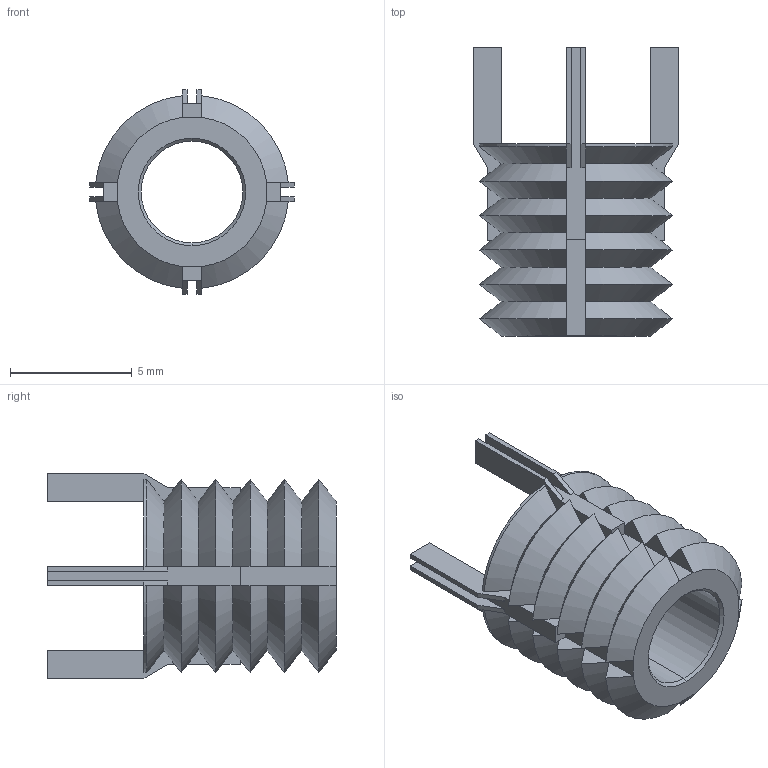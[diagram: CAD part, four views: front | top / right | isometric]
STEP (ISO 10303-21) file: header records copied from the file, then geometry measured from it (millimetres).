
FILE_DESCRIPTION (( 'STEP AP203' ), '1' );
FILE_NAME ('TR1565.66300.step', '2023-03-29T14:30:13', ( '' ), ( '' ), 'SwSTEP 2.0', 'SolidWorks 2019', '' );
FILE_SCHEMA (( 'CONFIG_CONTROL_DESIGN' ));
Length unit declared in the file: inch
Products named in the file (3): TR1565.66300; Part1_TR1565.66300; Part2_TR1565.66300
Assembly tree (5 placements, depth 2):
  TR1565.66300
    Part1_TR1565.66300
    Part2_TR1565.66300  x4
Bounding box: 8.38 x 11.81 x 8.38 mm (x, y, z)
Volume: 209.6 mm3; surface area: 572.3 mm2
Topology: 5 solids, 5 shells, 156 faces, 346 edges, 200 vertices
Faces by surface type: plane 102, cone 48, cylinder 6
Entity records: 3663 total; most frequent: CARTESIAN_POINT 848, ORIENTED_EDGE 512, DIRECTION 484, EDGE_CURVE 256, AXIS2_PLACEMENT_3D 188, VERTEX_POINT 140, EDGE_LOOP 122, ADVANCED_FACE 120
